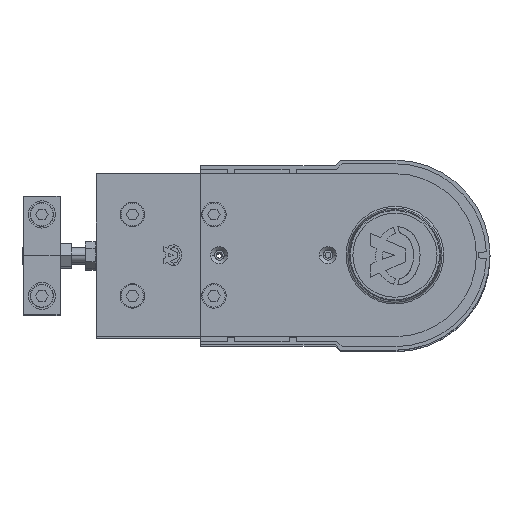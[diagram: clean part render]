
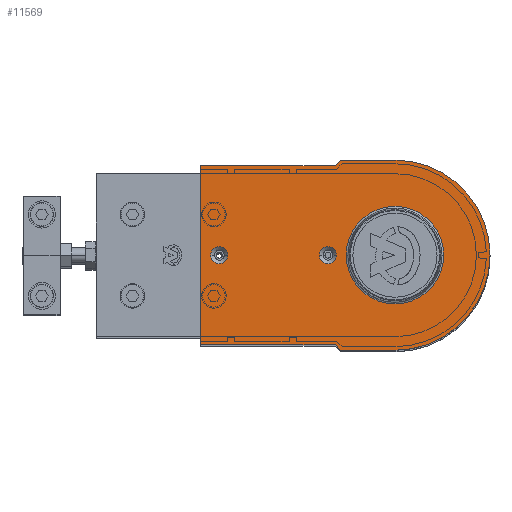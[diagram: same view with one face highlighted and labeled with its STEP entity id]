
A CAD part, top view. The second image highlights one B-rep face of the part: STEP entity #11569.
In plain terms, the highlighted planar face has unit normal (0, 0, 1).
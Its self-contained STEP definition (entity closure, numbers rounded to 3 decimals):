
#49 = EDGE_CURVE ( 'NONE', #13889, #12890, #14195, .T. ) ;
#117 = EDGE_CURVE ( 'NONE', #6560, #1238, #20821, .T. ) ;
#199 = EDGE_CURVE ( 'NONE', #17328, #11159, #19312, .T. ) ;
#275 = DIRECTION ( 'NONE',  ( 1., 0., 0. ) ) ;
#723 = CARTESIAN_POINT ( 'NONE',  ( 41.7, 0., 0. ) ) ;
#986 = AXIS2_PLACEMENT_3D ( 'NONE', #19827, #10015, #275 ) ;
#1004 = ORIENTED_EDGE ( 'NONE', *, *, #18849, .T. ) ;
#1144 = FACE_OUTER_BOUND ( 'NONE', #17444, .T. ) ;
#1238 = VERTEX_POINT ( 'NONE', #11351 ) ;
#1323 = EDGE_CURVE ( 'NONE', #12529, #3029, #9265, .T. ) ;
#2239 = AXIS2_PLACEMENT_3D ( 'NONE', #16430, #6620, #18053 ) ;
#2400 = ORIENTED_EDGE ( 'NONE', *, *, #7235, .T. ) ;
#2571 = LINE ( 'NONE', #19566, #3063 ) ;
#2581 = EDGE_CURVE ( 'NONE', #1238, #13609, #6947, .T. ) ;
#2620 = VECTOR ( 'NONE', #3540, 1000. ) ;
#2753 = VECTOR ( 'NONE', #19734, 1000. ) ;
#2900 = AXIS2_PLACEMENT_3D ( 'NONE', #9155, #4907, #10029 ) ;
#3029 = VERTEX_POINT ( 'NONE', #10846 ) ;
#3063 = VECTOR ( 'NONE', #9743, 1000. ) ;
#3102 = DIRECTION ( 'NONE',  ( -0.707, 0.707, 0. ) ) ;
#3162 = CARTESIAN_POINT ( 'NONE',  ( 0., 0., 0. ) ) ;
#3191 = AXIS2_PLACEMENT_3D ( 'NONE', #13923, #4155, #15591 ) ;
#3266 = VECTOR ( 'NONE', #19697, 1000. ) ;
#3540 = DIRECTION ( 'NONE',  ( 1., 0., 0. ) ) ;
#3963 = LINE ( 'NONE', #18471, #16508 ) ;
#3985 = DIRECTION ( 'NONE',  ( 0., 0., 1. ) ) ;
#4155 = DIRECTION ( 'NONE',  ( 0., 0., 1. ) ) ;
#4781 = DIRECTION ( 'NONE',  ( 0., 0., 1. ) ) ;
#4907 = DIRECTION ( 'NONE',  ( 0., 0., 1. ) ) ;
#4961 = CIRCLE ( 'NONE', #3191, 4.7 ) ;
#5436 = ORIENTED_EDGE ( 'NONE', *, *, #8111, .T. ) ;
#5473 = CARTESIAN_POINT ( 'NONE',  ( 33., 49.5, 0. ) ) ;
#5644 = AXIS2_PLACEMENT_3D ( 'NONE', #16478, #11961, #11796 ) ;
#5704 = CARTESIAN_POINT ( 'NONE',  ( 107.5, 49.5, 0. ) ) ;
#5808 = CARTESIAN_POINT ( 'NONE',  ( 0., 0., 0. ) ) ;
#5984 = CIRCLE ( 'NONE', #2239, 26.933 ) ;
#6250 = VERTEX_POINT ( 'NONE', #15081 ) ;
#6560 = VERTEX_POINT ( 'NONE', #20687 ) ;
#6620 = DIRECTION ( 'NONE',  ( 0., 0., -1. ) ) ;
#6752 = EDGE_CURVE ( 'NONE', #13609, #6250, #2571, .T. ) ;
#6947 = LINE ( 'NONE', #18608, #2620 ) ;
#7034 = DIRECTION ( 'NONE',  ( -1., 0., 0. ) ) ;
#7235 = EDGE_CURVE ( 'NONE', #20729, #11943, #15564, .T. ) ;
#7414 = ORIENTED_EDGE ( 'NONE', *, *, #10541, .T. ) ;
#7529 = EDGE_CURVE ( 'NONE', #7628, #17691, #10910, .T. ) ;
#7572 = CARTESIAN_POINT ( 'NONE',  ( 107.5, -49.5, 0. ) ) ;
#7628 = VERTEX_POINT ( 'NONE', #16828 ) ;
#8006 = CARTESIAN_POINT ( 'NONE',  ( 30., 52.5, 0. ) ) ;
#8111 = EDGE_CURVE ( 'NONE', #6250, #20729, #15774, .T. ) ;
#9155 = CARTESIAN_POINT ( 'NONE',  ( 97., 0., 0. ) ) ;
#9265 = CIRCLE ( 'NONE', #5644, 4.7 ) ;
#9409 = ORIENTED_EDGE ( 'NONE', *, *, #2581, .T. ) ;
#9709 = ORIENTED_EDGE ( 'NONE', *, *, #117, .T. ) ;
#9743 = DIRECTION ( 'NONE',  ( 0.707, 0.707, 0. ) ) ;
#10015 = DIRECTION ( 'NONE',  ( 0., 0., -1. ) ) ;
#10029 = DIRECTION ( 'NONE',  ( 1., 0., 0. ) ) ;
#10052 = ORIENTED_EDGE ( 'NONE', *, *, #7529, .T. ) ;
#10541 = EDGE_CURVE ( 'NONE', #11943, #13889, #3963, .T. ) ;
#10846 = CARTESIAN_POINT ( 'NONE',  ( 32.3, 0., 0. ) ) ;
#10908 = CIRCLE ( 'NONE', #19005, 4.7 ) ;
#10910 = CIRCLE ( 'NONE', #986, 26.933 ) ;
#10947 = AXIS2_PLACEMENT_3D ( 'NONE', #3162, #4781, #16237 ) ;
#11159 = VERTEX_POINT ( 'NONE', #16677 ) ;
#11168 = VECTOR ( 'NONE', #19111, 1000. ) ;
#11205 = EDGE_LOOP ( 'NONE', ( #15838, #19526 ) ) ;
#11351 = CARTESIAN_POINT ( 'NONE',  ( 0., -52.5, 0. ) ) ;
#11560 = CARTESIAN_POINT ( 'NONE',  ( 107.5, -49.5, 0. ) ) ;
#11569 = ADVANCED_FACE ( 'NONE', ( #14140, #17986, #13619, #1144 ), #19446, .T. ) ;
#11796 = DIRECTION ( 'NONE',  ( 1., 0., 0. ) ) ;
#11933 = LINE ( 'NONE', #18047, #3266 ) ;
#11943 = VERTEX_POINT ( 'NONE', #5704 ) ;
#11961 = DIRECTION ( 'NONE',  ( 0., 0., 1. ) ) ;
#12529 = VERTEX_POINT ( 'NONE', #723 ) ;
#12890 = VERTEX_POINT ( 'NONE', #8006 ) ;
#13205 = ORIENTED_EDGE ( 'NONE', *, *, #49, .T. ) ;
#13609 = VERTEX_POINT ( 'NONE', #14648 ) ;
#13619 = FACE_BOUND ( 'NONE', #13745, .T. ) ;
#13745 = EDGE_LOOP ( 'NONE', ( #16888, #17961 ) ) ;
#13753 = CARTESIAN_POINT ( 'NONE',  ( 37., 0., 0. ) ) ;
#13889 = VERTEX_POINT ( 'NONE', #16938 ) ;
#13923 = CARTESIAN_POINT ( 'NONE',  ( 97., 0., 0. ) ) ;
#14140 = FACE_BOUND ( 'NONE', #19564, .T. ) ;
#14195 = LINE ( 'NONE', #5473, #18048 ) ;
#14648 = CARTESIAN_POINT ( 'NONE',  ( 30., -52.5, 0. ) ) ;
#14828 = CARTESIAN_POINT ( 'NONE',  ( 101.7, 0., 0. ) ) ;
#15081 = CARTESIAN_POINT ( 'NONE',  ( 33., -49.5, 0. ) ) ;
#15424 = DIRECTION ( 'NONE',  ( 1., 0., 0. ) ) ;
#15564 = LINE ( 'NONE', #17488, #11168 ) ;
#15591 = DIRECTION ( 'NONE',  ( 1., 0., 0. ) ) ;
#15774 = LINE ( 'NONE', #11560, #2753 ) ;
#15838 = ORIENTED_EDGE ( 'NONE', *, *, #1323, .F. ) ;
#16237 = DIRECTION ( 'NONE',  ( 1., 0., 0. ) ) ;
#16430 = CARTESIAN_POINT ( 'NONE',  ( 0., 0., 0. ) ) ;
#16459 = AXIS2_PLACEMENT_3D ( 'NONE', #5808, #19382, #20692 ) ;
#16478 = CARTESIAN_POINT ( 'NONE',  ( 37., 0., 0. ) ) ;
#16508 = VECTOR ( 'NONE', #7034, 1000. ) ;
#16677 = CARTESIAN_POINT ( 'NONE',  ( 92.3, 0., 0. ) ) ;
#16828 = CARTESIAN_POINT ( 'NONE',  ( 26.933, 0., 0. ) ) ;
#16829 = EDGE_CURVE ( 'NONE', #3029, #12529, #10908, .T. ) ;
#16888 = ORIENTED_EDGE ( 'NONE', *, *, #199, .F. ) ;
#16938 = CARTESIAN_POINT ( 'NONE',  ( 33., 49.5, 0. ) ) ;
#17104 = ORIENTED_EDGE ( 'NONE', *, *, #17277, .T. ) ;
#17277 = EDGE_CURVE ( 'NONE', #12890, #6560, #11933, .T. ) ;
#17328 = VERTEX_POINT ( 'NONE', #14828 ) ;
#17444 = EDGE_LOOP ( 'NONE', ( #2400, #7414, #13205, #17104, #9709, #9409, #19823, #5436 ) ) ;
#17488 = CARTESIAN_POINT ( 'NONE',  ( 107.5, -49.5, 0. ) ) ;
#17691 = VERTEX_POINT ( 'NONE', #18027 ) ;
#17961 = ORIENTED_EDGE ( 'NONE', *, *, #19898, .F. ) ;
#17986 = FACE_BOUND ( 'NONE', #11205, .T. ) ;
#18027 = CARTESIAN_POINT ( 'NONE',  ( -26.933, 0., 0. ) ) ;
#18047 = CARTESIAN_POINT ( 'NONE',  ( 30., 52.5, 0. ) ) ;
#18048 = VECTOR ( 'NONE', #3102, 1000. ) ;
#18053 = DIRECTION ( 'NONE',  ( 1., 0., 0. ) ) ;
#18471 = CARTESIAN_POINT ( 'NONE',  ( 107.5, 49.5, 0. ) ) ;
#18608 = CARTESIAN_POINT ( 'NONE',  ( 30., -52.5, 0. ) ) ;
#18849 = EDGE_CURVE ( 'NONE', #17691, #7628, #5984, .T. ) ;
#19005 = AXIS2_PLACEMENT_3D ( 'NONE', #13753, #3985, #15424 ) ;
#19111 = DIRECTION ( 'NONE',  ( 0., 1., 0. ) ) ;
#19312 = CIRCLE ( 'NONE', #2900, 4.7 ) ;
#19382 = DIRECTION ( 'NONE',  ( 0., 0., 1. ) ) ;
#19446 = PLANE ( 'NONE',  #10947 ) ;
#19526 = ORIENTED_EDGE ( 'NONE', *, *, #16829, .F. ) ;
#19564 = EDGE_LOOP ( 'NONE', ( #10052, #1004 ) ) ;
#19566 = CARTESIAN_POINT ( 'NONE',  ( 33., -49.5, 0. ) ) ;
#19697 = DIRECTION ( 'NONE',  ( -1., 0., 0. ) ) ;
#19734 = DIRECTION ( 'NONE',  ( 1., 0., 0. ) ) ;
#19823 = ORIENTED_EDGE ( 'NONE', *, *, #6752, .T. ) ;
#19827 = CARTESIAN_POINT ( 'NONE',  ( 0., 0., 0. ) ) ;
#19898 = EDGE_CURVE ( 'NONE', #11159, #17328, #4961, .T. ) ;
#20687 = CARTESIAN_POINT ( 'NONE',  ( 0., 52.5, 0. ) ) ;
#20692 = DIRECTION ( 'NONE',  ( 1., 0., 0. ) ) ;
#20729 = VERTEX_POINT ( 'NONE', #7572 ) ;
#20821 = CIRCLE ( 'NONE', #16459, 52.5 ) ;
